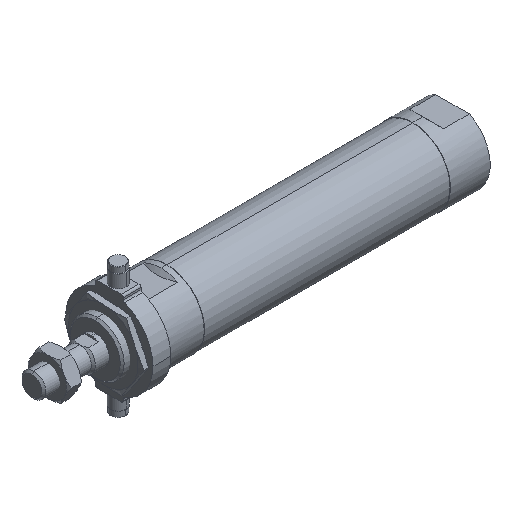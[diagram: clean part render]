
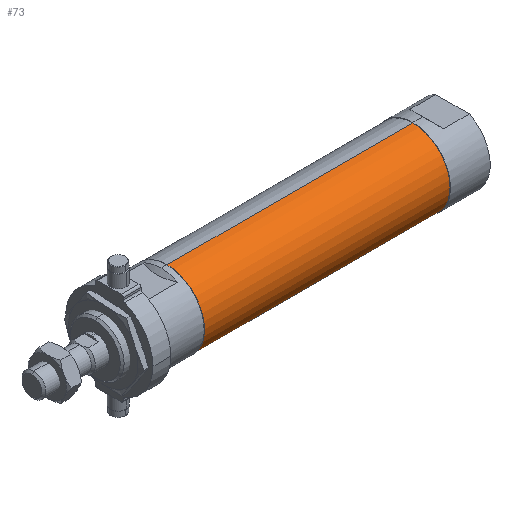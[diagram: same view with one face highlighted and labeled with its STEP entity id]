
A CAD part, isometric view. The second image highlights one B-rep face of the part: STEP entity #73.
In plain terms, the highlighted cylindrical face has radius 18.8 mm (diameter 37.6 mm), a partial arc.
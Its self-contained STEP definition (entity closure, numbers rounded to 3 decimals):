
#73 = ADVANCED_FACE ( 'NONE', ( #3417 ), #4191, .T. ) ;
#252 = ORIENTED_EDGE ( 'NONE', *, *, #1830, .F. ) ;
#401 = CARTESIAN_POINT ( 'NONE',  ( 192., 0., -18.8 ) ) ;
#569 = AXIS2_PLACEMENT_3D ( 'NONE', #1006, #1353, #4524 ) ;
#722 = CARTESIAN_POINT ( 'NONE',  ( 68., 0., -18.8 ) ) ;
#886 = EDGE_CURVE ( 'NONE', #3735, #2410, #1471, .T. ) ;
#970 = DIRECTION ( 'NONE',  ( -1., 0., 0. ) ) ;
#1006 = CARTESIAN_POINT ( 'NONE',  ( -1.784, 0., 0. ) ) ;
#1143 = VERTEX_POINT ( 'NONE', #722 ) ;
#1243 = CARTESIAN_POINT ( 'NONE',  ( -1.784, 0., 18.8 ) ) ;
#1280 = VECTOR ( 'NONE', #1611, 1000. ) ;
#1347 = ORIENTED_EDGE ( 'NONE', *, *, #4373, .T. ) ;
#1353 = DIRECTION ( 'NONE',  ( -1., 0., 0. ) ) ;
#1471 = CIRCLE ( 'NONE', #2038, 18.8 ) ;
#1564 = EDGE_CURVE ( 'NONE', #3735, #1143, #2066, .T. ) ;
#1611 = DIRECTION ( 'NONE',  ( -1., 0., 0. ) ) ;
#1830 = EDGE_CURVE ( 'NONE', #1143, #4494, #2564, .T. ) ;
#2038 = AXIS2_PLACEMENT_3D ( 'NONE', #3717, #2292, #2684 ) ;
#2066 = LINE ( 'NONE', #3255, #4478 ) ;
#2165 = ORIENTED_EDGE ( 'NONE', *, *, #886, .T. ) ;
#2292 = DIRECTION ( 'NONE',  ( -1., 0., 0. ) ) ;
#2410 = VERTEX_POINT ( 'NONE', #3966 ) ;
#2420 = CARTESIAN_POINT ( 'NONE',  ( 68., 0., 18.8 ) ) ;
#2541 = DIRECTION ( 'NONE',  ( -1., 0., 0. ) ) ;
#2564 = CIRCLE ( 'NONE', #3858, 18.8 ) ;
#2684 = DIRECTION ( 'NONE',  ( 0., 0., 1. ) ) ;
#3098 = LINE ( 'NONE', #1243, #1280 ) ;
#3255 = CARTESIAN_POINT ( 'NONE',  ( -1.784, 0., -18.8 ) ) ;
#3417 = FACE_OUTER_BOUND ( 'NONE', #3723, .T. ) ;
#3717 = CARTESIAN_POINT ( 'NONE',  ( 192., 0., 0. ) ) ;
#3723 = EDGE_LOOP ( 'NONE', ( #3894, #2165, #1347, #252 ) ) ;
#3735 = VERTEX_POINT ( 'NONE', #401 ) ;
#3741 = CARTESIAN_POINT ( 'NONE',  ( 68., 0., 0. ) ) ;
#3858 = AXIS2_PLACEMENT_3D ( 'NONE', #3741, #970, #4131 ) ;
#3894 = ORIENTED_EDGE ( 'NONE', *, *, #1564, .F. ) ;
#3966 = CARTESIAN_POINT ( 'NONE',  ( 192., 0., 18.8 ) ) ;
#4131 = DIRECTION ( 'NONE',  ( 0., 0., 1. ) ) ;
#4191 = CYLINDRICAL_SURFACE ( 'NONE', #569, 18.8 ) ;
#4373 = EDGE_CURVE ( 'NONE', #2410, #4494, #3098, .T. ) ;
#4478 = VECTOR ( 'NONE', #2541, 1000. ) ;
#4494 = VERTEX_POINT ( 'NONE', #2420 ) ;
#4524 = DIRECTION ( 'NONE',  ( 0., 0., 1. ) ) ;
